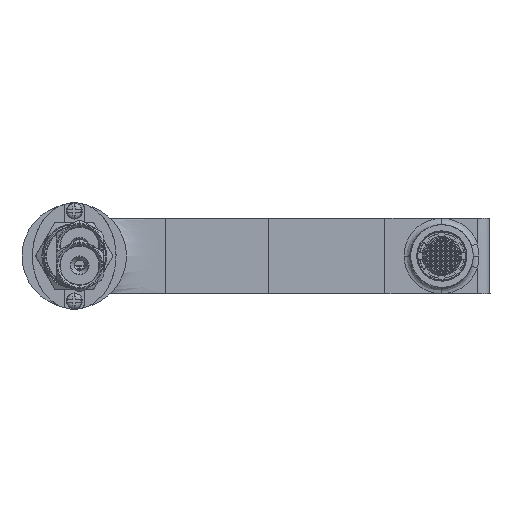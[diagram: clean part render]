
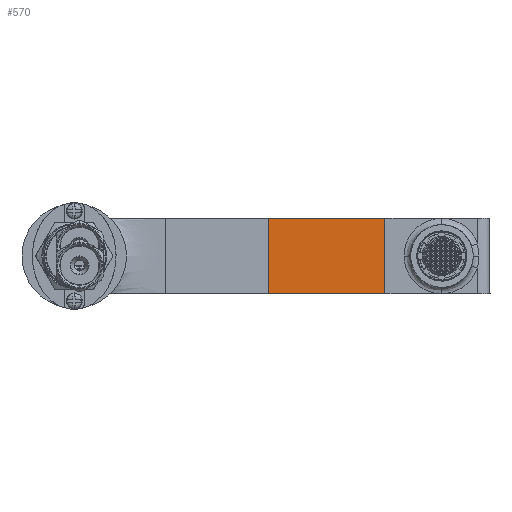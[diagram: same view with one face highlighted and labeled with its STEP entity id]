
A CAD part, front view. The second image highlights one B-rep face of the part: STEP entity #570.
In plain terms, the highlighted planar face has unit normal (0, -1, 0) as drawn and (0, 0, -1) by its records, which use the part's own axes.
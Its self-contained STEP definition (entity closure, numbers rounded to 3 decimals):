
#15=DIRECTION('',(0.,1.,0.));
#16=VECTOR('',#15,55.78);
#17=CARTESIAN_POINT('',(995.022,197.848,246.002));
#18=LINE('',#17,#16);
#211=DIRECTION('',(1.,0.,0.));
#212=VECTOR('',#211,36.);
#213=CARTESIAN_POINT('',(995.022,253.628,246.002));
#214=LINE('',#213,#212);
#257=DIRECTION('',(0.,-1.,0.));
#258=VECTOR('',#257,55.78);
#259=CARTESIAN_POINT('',(1031.022,253.628,246.002));
#260=LINE('',#259,#258);
#274=DIRECTION('',(-1.,0.,0.));
#275=VECTOR('',#274,36.);
#276=CARTESIAN_POINT('',(1031.022,197.848,246.002));
#277=LINE('',#276,#275);
#475=CARTESIAN_POINT('',(995.022,197.848,246.002));
#476=CARTESIAN_POINT('',(995.022,253.628,246.002));
#477=VERTEX_POINT('',#475);
#478=VERTEX_POINT('',#476);
#479=CARTESIAN_POINT('',(1031.022,197.848,246.002));
#480=VERTEX_POINT('',#479);
#481=CARTESIAN_POINT('',(1031.022,253.628,246.002));
#482=VERTEX_POINT('',#481);
#555=CARTESIAN_POINT('',(996.022,197.848,246.002));
#556=DIRECTION('',(0.,0.,-1.));
#557=DIRECTION('',(1.,0.,0.));
#558=AXIS2_PLACEMENT_3D('',#555,#556,#557);
#559=PLANE('',#558);
#561=ORIENTED_EDGE('',*,*,#560,.F.);
#563=ORIENTED_EDGE('',*,*,#562,.F.);
#565=ORIENTED_EDGE('',*,*,#564,.F.);
#567=ORIENTED_EDGE('',*,*,#566,.F.);
#568=EDGE_LOOP('',(#561,#563,#565,#567));
#569=FACE_OUTER_BOUND('',#568,.F.);
#560=EDGE_CURVE('',#477,#478,#18,.T.);
#562=EDGE_CURVE('',#480,#477,#277,.T.);
#564=EDGE_CURVE('',#482,#480,#260,.T.);
#566=EDGE_CURVE('',#478,#482,#214,.T.);
#570=ADVANCED_FACE('',(#569),#559,.T.);
